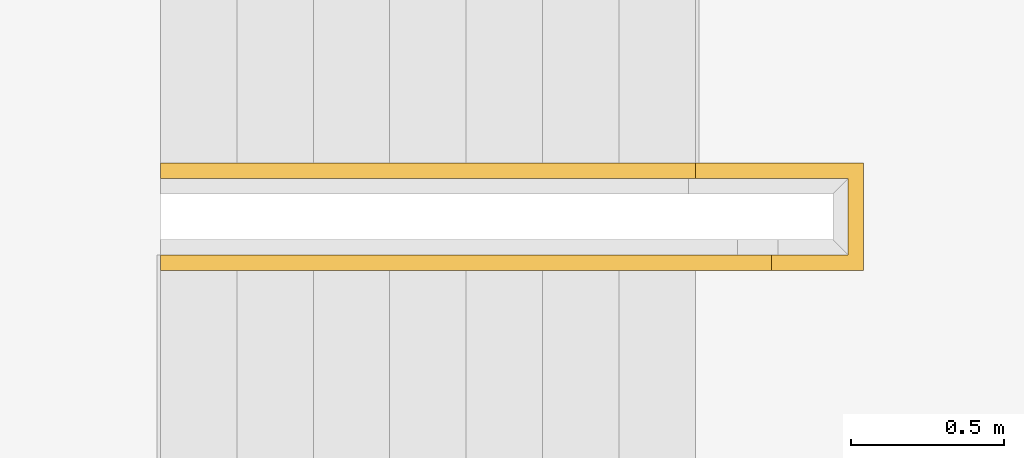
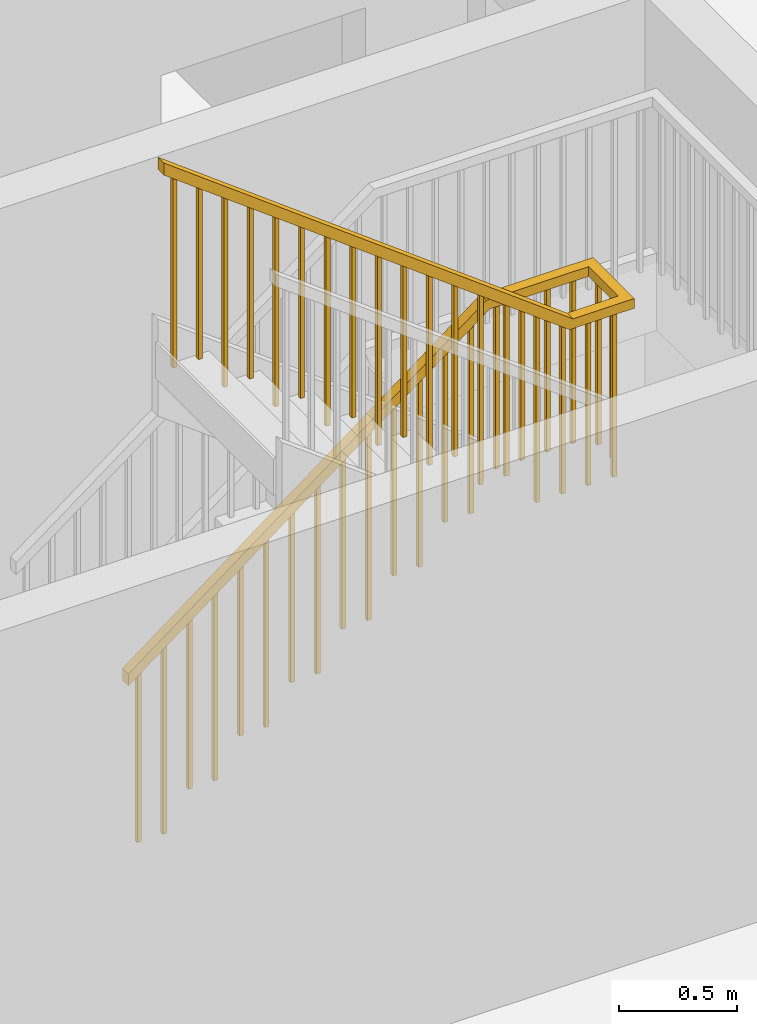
# One storey, part 3 of 3: 1 railing, 1 element without a shape of its own.
"""IFC2X3 building model written with IfcOpenShell, lengths in metres."""

import ifcopenshell
import ifcopenshell.guid

model = None  # the IFC model being written
_history = None  # IfcOwnerHistory: only IFC2X3 demands one
_inside = {}  # id of a spatial element -> (the spatial element, [elements in it])
_under = {}  # id of a project, library or spatial element -> (it, [spatial elements below it])
_declared = {}  # id of a project -> (the project, [libraries it declares])
_typed = {}  # id of a type object -> (the type object, [elements of that type])
_made_of = {}  # id of a material, layer set ... -> (it, [elements and type objects made of it])


def new_model(schema):
    """Start an empty IFC model of exactly this schema.

    Asked for "IFC4X3", IfcOpenShell would pick the latest addendum, in which some entities
    have other attributes; the version numbers below select the first issue.
    IFC2X3 requires an IfcOwnerHistory on every rooted entity: one is made here for all.
    """
    global model, _history
    if schema == "IFC4X3":
        model = ifcopenshell.file(schema_version=(4, 3, 0, 0))
    else:
        model = ifcopenshell.file(schema=schema)
    _inside.clear()
    _under.clear()
    _declared.clear()
    _typed.clear()
    _made_of.clear()
    _history = None
    if model.schema == "IFC2X3":
        org = make("IfcOrganization", Name="unknown")
        user = make(
            "IfcPersonAndOrganization",
            ThePerson=make("IfcPerson", FamilyName="unknown"),
            TheOrganization=org,
        )
        app = make(
            "IfcApplication",
            ApplicationDeveloper=org,
            Version="unknown",
            ApplicationFullName="unknown",
            ApplicationIdentifier="unknown",
        )
        _history = make(
            "IfcOwnerHistory",
            OwningUser=user,
            OwningApplication=app,
            ChangeAction="ADDED",
            CreationDate=0,
        )
    return model


def make(cls, **values):
    """One entity of the class cls with the attributes given. An attribute that is None is left unset."""
    return model.create_entity(
        cls, **{name: value for name, value in values.items() if value is not None}
    )


def entity(cls, *values):
    """Any entity or typed value of the class cls, its attributes in the order of the schema. None: left unset."""
    e = model.create_entity(cls)
    for i, value in enumerate(values):
        if value is not None:
            e[i] = value
    return e


def rooted(cls, **values):
    """An entity with a GlobalId (a new one), such as an element, a storey or a relation."""
    return make(cls, GlobalId=ifcopenshell.guid.new(), OwnerHistory=_history, **values)


def si_unit(unit_type, name, prefix=None):
    """IfcSIUnit, for example si_unit("LENGTHUNIT", "METRE", prefix="MILLI")."""
    return make("IfcSIUnit", UnitType=unit_type, Prefix=prefix, Name=name)


def converted_unit(unit_type, name, factor, base, dimensions=None, offset=None):
    """IfcConversionBasedUnit, such as the inch: factor (a typed value) times the base unit."""
    return make(
        "IfcConversionBasedUnit"
        if offset is None
        else "IfcConversionBasedUnitWithOffset",
        ConversionOffset=offset,
        Dimensions=None
        if dimensions is None
        else entity("IfcDimensionalExponents", *dimensions),
        UnitType=unit_type,
        Name=name,
        ConversionFactor=make(
            "IfcMeasureWithUnit", ValueComponent=factor, UnitComponent=base
        ),
    )


def derived_unit(unit_type, elements):
    """IfcDerivedUnit: a product of units, each with its exponent."""
    return make(
        "IfcDerivedUnit",
        Elements=[
            make("IfcDerivedUnitElement", Unit=unit, Exponent=power)
            for unit, power in elements
        ],
        UnitType=unit_type,
    )


def assignment(units):
    """IfcUnitAssignment: the units of a project."""
    return None if units is None else make("IfcUnitAssignment", Units=units)


def point(xyz):
    """IfcCartesianPoint."""
    return None if xyz is None else make("IfcCartesianPoint", Coordinates=xyz)


def direction(xyz):
    """IfcDirection."""
    return None if xyz is None else make("IfcDirection", DirectionRatios=xyz)


def frame(location, z_axis=None, x_axis=None):
    """IfcAxis2Placement3D, a coordinate frame: its origin and axes. An axis left out is left unset."""
    return make(
        "IfcAxis2Placement3D",
        Location=point(location),
        Axis=direction(z_axis),
        RefDirection=direction(x_axis),
    )


def origin():
    """The frame at (0, 0, 0) with its axes left unset."""
    return frame((0.0, 0.0, 0.0))


def place(relative_to, where):
    """IfcLocalPlacement: puts the frame where relative to a parent placement (None: the world)."""
    return make(
        "IfcLocalPlacement", PlacementRelTo=relative_to, RelativePlacement=where
    )


def context(
    kind, dimensions, precision=None, world=None, true_north=None, identifier=None
):
    """IfcGeometricRepresentationContext, for example the 3D "Model" context."""
    return make(
        "IfcGeometricRepresentationContext",
        ContextIdentifier=identifier,
        ContextType=kind,
        CoordinateSpaceDimension=dimensions,
        Precision=precision,
        WorldCoordinateSystem=world,
        TrueNorth=true_north,
    )


def subcontext(parent, identifier, kind, view, scale=None):
    """IfcGeometricRepresentationSubContext, for example "Body" below "Model"."""
    return make(
        "IfcGeometricRepresentationSubContext",
        ContextIdentifier=identifier,
        ContextType=kind,
        ParentContext=parent,
        TargetScale=scale,
        TargetView=view,
    )


def project(units=None, contexts=None):
    """IfcProject with its units and contexts."""
    return rooted(
        "IfcProject",
        Name="project",
        RepresentationContexts=contexts,
        UnitsInContext=assignment(units),
    )


def spatial(cls, under=None, at=None, **own):
    """A site, building, storey or space (cls), placed at a placement, below another one or the project."""
    s = rooted(cls, ObjectPlacement=at, **own)
    if under is not None:
        _under.setdefault(under.id(), (under, []))[1].append(s)
    return s


def faces_of(points, faces, orient=None, outer=None):
    """IfcFace entities. A face is a list of loops; a loop is a list of indices into points, from 0.

    orient and outer hold one flag for each loop. By default every Orientation is true, the
    first loop of a face is its IfcFaceOuterBound and the others are IfcFaceBound.
    """
    made = []
    for i, loops in enumerate(faces):
        bounds = []
        for j, loop in enumerate(loops):
            is_outer = j == 0 if outer is None else outer[i][j]
            bounds.append(
                make(
                    "IfcFaceOuterBound" if is_outer else "IfcFaceBound",
                    Bound=make("IfcPolyLoop", Polygon=[points[k] for k in loop]),
                    Orientation=True if orient is None else orient[i][j],
                )
            )
        made.append(make("IfcFace", Bounds=bounds))
    return made


def faceted_brep(points, faces, orient=None, outer=None, voids=None):
    """IfcFacetedBrep: a solid bounded by flat faces; with voids (closed shells), ...WithVoids."""
    shared = [point(p) for p in points]
    hull = make("IfcClosedShell", CfsFaces=faces_of(shared, faces, orient, outer))
    if voids is None:
        return make("IfcFacetedBrep", Outer=hull)
    return make(
        "IfcFacetedBrepWithVoids",
        Outer=hull,
        Voids=[
            make(cls, CfsFaces=faces_of(shared, fs, o, b)) for cls, fs, o, b in voids
        ],
    )


def shape(context_of_items, identifier, shape_type, items):
    """IfcShapeRepresentation: the items that make up one representation, for example the "Body"."""
    return make(
        "IfcShapeRepresentation",
        ContextOfItems=context_of_items,
        RepresentationIdentifier=identifier,
        RepresentationType=shape_type,
        Items=items,
    )


def made_of(thing, what):
    """Note that an element or type object is made of a material, layer set ...; save() writes the relation."""
    if what is not None:
        _made_of.setdefault(what.id(), (what, []))[1].append(thing)
    return thing


def element(
    cls,
    number,
    at=None,
    inside=None,
    cuts=None,
    type_object=None,
    material=None,
    context=None,
    identifier="Body",
    shape_type=None,
    held_by="IfcProductDefinitionShape",
    body=None,
    shapes=None,
    **own,
):
    """One element of the class cls, such as IfcWall. Its Tag is "e" and its number.

    at: its placement. inside: the storey or other place that contains it. cuts: it is an
    opening in that element (IfcRelVoidsElement). A single representation is given by context,
    identifier, shape_type and body (its items); several are given by shapes. held_by: the class
    of the entity that holds the representations. save() writes the other relations.
    """
    e = rooted(cls, Tag="e%d" % number, ObjectPlacement=at, **own)
    if body is not None:
        shapes = [shape(context, identifier, shape_type, body)]
    if shapes is not None:
        e.Representation = make(held_by, Representations=shapes)
    if inside is not None:
        _inside.setdefault(inside.id(), (inside, []))[1].append(e)
    if cuts is not None:
        rooted(
            "IfcRelVoidsElement", RelatingBuildingElement=cuts, RelatedOpeningElement=e
        )
    if type_object is not None:
        _typed.setdefault(type_object.id(), (type_object, []))[1].append(e)
    return made_of(e, material)


def aggregate(whole, parts):
    """IfcRelAggregates: a whole, such as a stair, and the parts it consists of."""
    return rooted("IfcRelAggregates", RelatingObject=whole, RelatedObjects=parts)


def save(model, path):
    """Write the relations noted so far, then the file.

    IfcRelAggregates (storeys below a building ...), IfcRelContainedInSpatialStructure (elements
    in a storey), IfcRelDefinesByType, IfcRelAssociatesMaterial and IfcRelDeclares: one each for
    every whole, place, type object, material and project.
    """
    for whole, parts in _under.values():
        aggregate(whole, parts)
    for where, things in _inside.values():
        rooted(
            "IfcRelContainedInSpatialStructure",
            RelatedElements=things,
            RelatingStructure=where,
        )
    for kind, things in _typed.values():
        rooted("IfcRelDefinesByType", RelatedObjects=things, RelatingType=kind)
    for what, things in _made_of.values():
        rooted("IfcRelAssociatesMaterial", RelatedObjects=things, RelatingMaterial=what)
    for by, libraries in _declared.values():
        rooted("IfcRelDeclares", RelatingContext=by, RelatedDefinitions=libraries)
    model.write(path)


model = new_model("IFC2X3")

# Units and contexts
model_context = context("Model", 3, precision=1e-05, world=origin(), true_north=direction((6.12303176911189e-17, 1.0)))
context_of_model = context(None, 3, precision=1e-05, world=origin(), true_north=direction((6.12303176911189e-17, 1.0)))
body_context = subcontext(model_context, "Body", "Model", "MODEL_VIEW")
ifc_project = project(units=[si_unit("LENGTHUNIT", "METRE"), si_unit("AREAUNIT", "SQUARE_METRE"), si_unit("VOLUMEUNIT", "CUBIC_METRE"), converted_unit("PLANEANGLEUNIT", "DEGREE", entity("IfcRatioMeasure", 0.0174532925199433), si_unit("PLANEANGLEUNIT", "RADIAN"), dimensions=[0, 0, 0, 0, 0, 0, 0]), si_unit("MASSUNIT", "GRAM", prefix="KILO"), derived_unit("MASSDENSITYUNIT", [(si_unit("MASSUNIT", "GRAM", prefix="KILO"), 1), (si_unit("LENGTHUNIT", "METRE"), -3)]), si_unit("TIMEUNIT", "SECOND"), si_unit("FREQUENCYUNIT", "HERTZ"), si_unit("THERMODYNAMICTEMPERATUREUNIT", "DEGREE_CELSIUS"), derived_unit("THERMALTRANSMITTANCEUNIT", [(si_unit("MASSUNIT", "GRAM", prefix="KILO"), 1), (si_unit("THERMODYNAMICTEMPERATUREUNIT", "KELVIN"), -1), (si_unit("TIMEUNIT", "SECOND"), -3)]), derived_unit("VOLUMETRICFLOWRATEUNIT", [(si_unit("LENGTHUNIT", "METRE"), 3), (si_unit("TIMEUNIT", "SECOND"), -1)]), si_unit("ELECTRICCURRENTUNIT", "AMPERE"), si_unit("ELECTRICVOLTAGEUNIT", "VOLT"), si_unit("POWERUNIT", "WATT"), si_unit("FORCEUNIT", "NEWTON"), si_unit("ILLUMINANCEUNIT", "LUX"), si_unit("LUMINOUSFLUXUNIT", "LUMEN"), si_unit("LUMINOUSINTENSITYUNIT", "CANDELA"), derived_unit("USERDEFINED", [(si_unit("MASSUNIT", "GRAM", prefix="KILO"), -1), (si_unit("LENGTHUNIT", "METRE"), -2), (si_unit("TIMEUNIT", "SECOND"), 3), (si_unit("LUMINOUSFLUXUNIT", "LUMEN"), 1)]), derived_unit("LINEARVELOCITYUNIT", [(si_unit("LENGTHUNIT", "METRE"), 1), (si_unit("TIMEUNIT", "SECOND"), -1)]), si_unit("PRESSUREUNIT", "PASCAL"), derived_unit("USERDEFINED", [(si_unit("LENGTHUNIT", "METRE"), -2), (si_unit("MASSUNIT", "GRAM", prefix="KILO"), 1), (si_unit("TIMEUNIT", "SECOND"), -2)])], contexts=[model_context, context_of_model])

# Site, building, storey
site_placement = place(None, origin())
site = spatial("IfcSite", under=ifc_project, at=site_placement, Name="Default", CompositionType="ELEMENT")
building_placement = place(site_placement, origin())
building = spatial("IfcBuilding", under=site, at=building_placement, CompositionType="ELEMENT")
storey_placement = place(building_placement, frame((0.0, 0.0, 6.0)))
storey = spatial("IfcBuildingStorey", under=building, at=storey_placement, Name="R+2", CompositionType="ELEMENT", Elevation=5.99999999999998)

# Stair, railing
stair_placement = place(storey_placement, origin())
stair = element("IfcStair", 1, at=stair_placement, inside=storey, Name="Escalier assemblé:Escalier", ObjectType="Escalier assemblé:Contremarche 190 mm max marche 250\xa0mm", ShapeType="NOTDEFINED")
railing_placement = place(stair_placement, frame((5.53266399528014, 0.961410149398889, 0.364705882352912)))
railing = element("IfcRailing", 2, at=railing_placement, Name="Garde-corps:900mm", ObjectType="Garde-corps:900mm", PredefinedType="NOTDEFINED", context=body_context, shape_type="Brep", body=[
    faceted_brep([(0.0725000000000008, 0.0150000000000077, 3.60635283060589), (0.0725000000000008, 0.0150000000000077, 2.63529411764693), (0.0725000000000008, 0.0350000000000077, 2.63529411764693), (0.0725000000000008, 0.0350000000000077, 3.60635283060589), (0.0525000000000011, 0.0350000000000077, 2.63529411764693), (0.0525000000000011, 0.0350000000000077, 3.6214116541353), (0.0525000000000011, 0.0150000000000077, 2.63529411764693), (0.0525000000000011, 0.0150000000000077, 3.6214116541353)], [[[0, 1, 2, 3]], [[3, 2, 4, 5]], [[5, 4, 6, 7]], [[1, 0, 7, 6]], [[0, 3, 5, 7]], [[2, 1, 6, 4]]]),
    faceted_brep([(0.197500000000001, 0.0150000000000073, 3.51223518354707), (0.197500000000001, 0.0150000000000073, 2.63529411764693), (0.197500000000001, 0.0350000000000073, 2.63529411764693), (0.197500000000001, 0.0350000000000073, 3.51223518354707), (0.177500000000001, 0.0350000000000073, 2.63529411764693), (0.177500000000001, 0.0350000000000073, 3.52729400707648), (0.177500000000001, 0.0150000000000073, 2.63529411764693), (0.177500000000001, 0.0150000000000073, 3.52729400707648)], [[[0, 1, 2, 3]], [[3, 2, 4, 5]], [[5, 4, 6, 7]], [[1, 0, 7, 6]], [[0, 3, 5, 7]], [[2, 1, 6, 4]]]),
    faceted_brep([(0.3225, 0.0150000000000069, 3.41811753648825), (0.3225, 0.0150000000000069, 2.44705882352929), (0.3225, 0.0350000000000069, 2.44705882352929), (0.3225, 0.0350000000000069, 3.41811753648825), (0.302500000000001, 0.0350000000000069, 2.44705882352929), (0.302500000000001, 0.0350000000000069, 3.43317636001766), (0.302500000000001, 0.0150000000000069, 2.44705882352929), (0.302500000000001, 0.0150000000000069, 3.43317636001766)], [[[0, 1, 2, 3]], [[3, 2, 4, 5]], [[5, 4, 6, 7]], [[1, 0, 7, 6]], [[0, 3, 5, 7]], [[2, 1, 6, 4]]]),
    faceted_brep([(0.447500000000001, 0.0150000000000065, 3.32399988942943), (0.447500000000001, 0.0150000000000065, 2.44705882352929), (0.447500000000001, 0.0350000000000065, 2.44705882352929), (0.447500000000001, 0.0350000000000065, 3.32399988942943), (0.427500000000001, 0.0350000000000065, 2.44705882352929), (0.427500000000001, 0.0350000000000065, 3.33905871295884), (0.427500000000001, 0.0150000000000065, 2.44705882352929), (0.427500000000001, 0.0150000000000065, 3.33905871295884)], [[[0, 1, 2, 3]], [[3, 2, 4, 5]], [[5, 4, 6, 7]], [[1, 0, 7, 6]], [[0, 3, 5, 7]], [[2, 1, 6, 4]]]),
    faceted_brep([(0.572500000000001, 0.0150000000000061, 3.22988224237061), (0.572500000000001, 0.0150000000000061, 2.25882352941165), (0.572500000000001, 0.0350000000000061, 2.25882352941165), (0.572500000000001, 0.0350000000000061, 3.22988224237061), (0.552500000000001, 0.0350000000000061, 2.25882352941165), (0.552500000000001, 0.0350000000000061, 3.24494106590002), (0.552500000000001, 0.0150000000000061, 2.25882352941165), (0.552500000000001, 0.0150000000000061, 3.24494106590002)], [[[0, 1, 2, 3]], [[3, 2, 4, 5]], [[5, 4, 6, 7]], [[1, 0, 7, 6]], [[0, 3, 5, 7]], [[2, 1, 6, 4]]]),
    faceted_brep([(0.697500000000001, 0.0150000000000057, 3.13576459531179), (0.697500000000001, 0.0150000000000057, 2.25882352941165), (0.697500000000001, 0.0350000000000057, 2.25882352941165), (0.697500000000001, 0.0350000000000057, 3.13576459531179), (0.677500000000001, 0.0350000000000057, 2.25882352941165), (0.677500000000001, 0.0350000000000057, 3.1508234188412), (0.677500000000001, 0.0150000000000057, 2.25882352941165), (0.677500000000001, 0.0150000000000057, 3.1508234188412)], [[[0, 1, 2, 3]], [[3, 2, 4, 5]], [[5, 4, 6, 7]], [[1, 0, 7, 6]], [[0, 3, 5, 7]], [[2, 1, 6, 4]]]),
    faceted_brep([(0.8225, 0.0150000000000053, 3.04164694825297), (0.8225, 0.0150000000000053, 2.07058823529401), (0.8225, 0.0350000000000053, 2.07058823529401), (0.8225, 0.0350000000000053, 3.04164694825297), (0.802500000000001, 0.0350000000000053, 2.07058823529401), (0.802500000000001, 0.0350000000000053, 3.05670577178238), (0.802500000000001, 0.0150000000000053, 2.07058823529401), (0.802500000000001, 0.0150000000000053, 3.05670577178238)], [[[0, 1, 2, 3]], [[3, 2, 4, 5]], [[5, 4, 6, 7]], [[1, 0, 7, 6]], [[0, 3, 5, 7]], [[2, 1, 6, 4]]]),
    faceted_brep([(0.947500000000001, 0.0150000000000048, 2.94752930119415), (0.947500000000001, 0.0150000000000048, 2.07058823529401), (0.947500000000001, 0.0350000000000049, 2.07058823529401), (0.947500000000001, 0.0350000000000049, 2.94752930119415), (0.927500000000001, 0.0350000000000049, 2.07058823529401), (0.927500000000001, 0.0350000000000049, 2.96258812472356), (0.927500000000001, 0.0150000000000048, 2.07058823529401), (0.927500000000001, 0.0150000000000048, 2.96258812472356)], [[[0, 1, 2, 3]], [[3, 2, 4, 5]], [[5, 4, 6, 7]], [[1, 0, 7, 6]], [[0, 3, 5, 7]], [[2, 1, 6, 4]]]),
    faceted_brep([(1.0725, 0.0150000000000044, 2.85341165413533), (1.0725, 0.0150000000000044, 1.88235294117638), (1.0725, 0.0350000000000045, 1.88235294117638), (1.0725, 0.0350000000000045, 2.85341165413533), (1.0525, 0.0350000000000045, 1.88235294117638), (1.0525, 0.0350000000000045, 2.86847047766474), (1.0525, 0.0150000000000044, 1.88235294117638), (1.0525, 0.0150000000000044, 2.86847047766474)], [[[0, 1, 2, 3]], [[3, 2, 4, 5]], [[5, 4, 6, 7]], [[1, 0, 7, 6]], [[0, 3, 5, 7]], [[2, 1, 6, 4]]]),
    faceted_brep([(1.1975, 0.015000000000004, 2.75929400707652), (1.1975, 0.015000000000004, 1.88235294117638), (1.1975, 0.0350000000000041, 1.88235294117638), (1.1975, 0.0350000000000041, 2.75929400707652), (1.1775, 0.0350000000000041, 1.88235294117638), (1.1775, 0.0350000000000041, 2.77435283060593), (1.1775, 0.015000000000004, 1.88235294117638), (1.1775, 0.015000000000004, 2.77435283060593)], [[[0, 1, 2, 3]], [[3, 2, 4, 5]], [[5, 4, 6, 7]], [[1, 0, 7, 6]], [[0, 3, 5, 7]], [[2, 1, 6, 4]]]),
    faceted_brep([(1.3225, 0.0150000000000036, 2.6651763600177), (1.3225, 0.0150000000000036, 1.69411764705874), (1.3225, 0.0350000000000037, 1.69411764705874), (1.3225, 0.0350000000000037, 2.6651763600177), (1.3025, 0.0350000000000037, 1.69411764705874), (1.3025, 0.0350000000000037, 2.68023518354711), (1.3025, 0.0150000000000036, 1.69411764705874), (1.3025, 0.0150000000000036, 2.68023518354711)], [[[0, 1, 2, 3]], [[3, 2, 4, 5]], [[5, 4, 6, 7]], [[1, 0, 7, 6]], [[0, 3, 5, 7]], [[2, 1, 6, 4]]]),
    faceted_brep([(1.4475, 0.0150000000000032, 2.57105871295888), (1.4475, 0.0150000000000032, 1.69411764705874), (1.4475, 0.0350000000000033, 1.69411764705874), (1.4475, 0.0350000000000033, 2.57105871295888), (1.4275, 0.0350000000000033, 1.69411764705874), (1.4275, 0.0350000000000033, 2.58611753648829), (1.4275, 0.0150000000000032, 1.69411764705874), (1.4275, 0.0150000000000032, 2.58611753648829)], [[[0, 1, 2, 3]], [[3, 2, 4, 5]], [[5, 4, 6, 7]], [[1, 0, 7, 6]], [[0, 3, 5, 7]], [[2, 1, 6, 4]]]),
    faceted_brep([(1.5725, 0.0150000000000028, 2.47694106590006), (1.5725, 0.0150000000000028, 1.5058823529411), (1.5725, 0.0350000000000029, 1.5058823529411), (1.5725, 0.0350000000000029, 2.47694106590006), (1.5525, 0.0350000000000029, 1.5058823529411), (1.5525, 0.0350000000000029, 2.49199988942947), (1.5525, 0.0150000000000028, 1.5058823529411), (1.5525, 0.0150000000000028, 2.49199988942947)], [[[0, 1, 2, 3]], [[3, 2, 4, 5]], [[5, 4, 6, 7]], [[1, 0, 7, 6]], [[0, 3, 5, 7]], [[2, 1, 6, 4]]]),
    faceted_brep([(1.6975, 0.0150000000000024, 2.38282341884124), (1.6975, 0.0150000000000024, 1.5058823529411), (1.6975, 0.0350000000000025, 1.5058823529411), (1.6975, 0.0350000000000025, 2.38282341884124), (1.6775, 0.0350000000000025, 1.5058823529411), (1.6775, 0.0350000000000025, 2.39788224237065), (1.6775, 0.0150000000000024, 1.5058823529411), (1.6775, 0.0150000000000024, 2.39788224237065)], [[[0, 1, 2, 3]], [[3, 2, 4, 5]], [[5, 4, 6, 7]], [[1, 0, 7, 6]], [[0, 3, 5, 7]], [[2, 1, 6, 4]]]),
    faceted_brep([(1.8479, 0.015000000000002, 2.26958106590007), (1.8479, 0.015000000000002, 1.31764705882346), (1.8479, 0.0350000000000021, 1.31764705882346), (1.8479, 0.0350000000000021, 2.26958106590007), (1.8279, 0.0350000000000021, 1.31764705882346), (1.8279, 0.0350000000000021, 2.28463988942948), (1.8279, 0.015000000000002, 1.31764705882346), (1.8279, 0.015000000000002, 2.28463988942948)], [[[0, 1, 2, 3]], [[3, 2, 4, 5]], [[5, 4, 6, 7]], [[1, 0, 7, 6]], [[0, 3, 5, 7]], [[2, 1, 6, 4]]]),
    faceted_brep([(1.9729, 0.0150000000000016, 2.17546341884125), (1.9729, 0.0150000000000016, 1.31764705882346), (1.9729, 0.0350000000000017, 1.31764705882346), (1.9729, 0.0350000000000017, 2.17546341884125), (1.9529, 0.0350000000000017, 1.31764705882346), (1.9529, 0.0350000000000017, 2.19052224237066), (1.9529, 0.0150000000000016, 1.31764705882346), (1.9529, 0.0150000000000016, 2.19052224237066)], [[[0, 1, 2, 3]], [[3, 2, 4, 5]], [[5, 4, 6, 7]], [[1, 0, 7, 6]], [[0, 3, 5, 7]], [[2, 1, 6, 4]]]),
    faceted_brep([(2.0979, 0.0150000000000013, 2.16764705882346), (2.0979, 0.0150000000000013, 1.31764705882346), (2.0979, 0.0350000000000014, 1.31764705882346), (2.0979, 0.0350000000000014, 2.16764705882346), (2.0779, 0.0350000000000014, 1.31764705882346), (2.0779, 0.0350000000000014, 2.16764705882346), (2.0779, 0.0150000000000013, 1.31764705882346), (2.0779, 0.0150000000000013, 2.16764705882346)], [[[0, 1, 2, 3]], [[3, 2, 4, 5]], [[5, 4, 6, 7]], [[1, 0, 7, 6]], [[0, 3, 5, 7]], [[2, 1, 6, 4]]]),
    faceted_brep([(2.2229, 0.0150000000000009, 2.16764705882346), (2.2229, 0.0150000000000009, 1.31764705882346), (2.2229, 0.035000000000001, 1.31764705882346), (2.2229, 0.035000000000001, 2.16764705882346), (2.2029, 0.035000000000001, 1.31764705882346), (2.2029, 0.035000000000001, 2.16764705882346), (2.2029, 0.0150000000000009, 1.31764705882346), (2.2029, 0.0150000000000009, 2.16764705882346)], [[[0, 1, 2, 3]], [[3, 2, 4, 5]], [[5, 4, 6, 7]], [[1, 0, 7, 6]], [[0, 3, 5, 7]], [[2, 1, 6, 4]]]),
    faceted_brep([(2.2854, 0.14830000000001, 2.16764705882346), (2.2854, 0.14830000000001, 1.31764705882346), (2.2654, 0.14830000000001, 1.31764705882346), (2.2654, 0.14830000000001, 2.16764705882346), (2.2654, 0.12830000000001, 1.31764705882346), (2.2654, 0.12830000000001, 2.16764705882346), (2.2854, 0.12830000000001, 1.31764705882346), (2.2854, 0.12830000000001, 2.16764705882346)], [[[0, 1, 2, 3]], [[3, 2, 4, 5]], [[5, 4, 6, 7]], [[1, 0, 7, 6]], [[0, 3, 5, 7]], [[2, 1, 6, 4]]]),
    faceted_brep([(2.2854, 0.27330000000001, 2.16764705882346), (2.2854, 0.27330000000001, 1.31764705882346), (2.2654, 0.27330000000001, 1.31764705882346), (2.2654, 0.27330000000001, 2.16764705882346), (2.2654, 0.25330000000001, 1.31764705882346), (2.2654, 0.25330000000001, 2.16764705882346), (2.2854, 0.25330000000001, 1.31764705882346), (2.2854, 0.25330000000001, 2.16764705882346)], [[[0, 1, 2, 3]], [[3, 2, 4, 5]], [[5, 4, 6, 7]], [[1, 0, 7, 6]], [[0, 3, 5, 7]], [[2, 1, 6, 4]]]),
    faceted_brep([(2.1775, 0.33580000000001, 2.16764705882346), (2.1775, 0.33580000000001, 1.31764705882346), (2.1775, 0.31580000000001, 1.31764705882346), (2.1775, 0.315800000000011, 2.16764705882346), (2.1975, 0.315800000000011, 1.31764705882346), (2.1975, 0.315800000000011, 2.16764705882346), (2.1975, 0.335800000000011, 1.31764705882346), (2.1975, 0.33580000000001, 2.16764705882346)], [[[0, 1, 2, 3]], [[3, 2, 4, 5]], [[5, 4, 6, 7]], [[1, 0, 7, 6]], [[0, 3, 5, 7]], [[2, 1, 6, 4]]]),
    faceted_brep([(2.0525, 0.335800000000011, 2.16764705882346), (2.0525, 0.335800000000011, 1.31764705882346), (2.0525, 0.315800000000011, 1.31764705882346), (2.0525, 0.315800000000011, 2.16764705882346), (2.0725, 0.315800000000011, 1.31764705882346), (2.0725, 0.315800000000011, 2.16764705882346), (2.0725, 0.335800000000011, 1.31764705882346), (2.0725, 0.335800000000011, 2.16764705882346)], [[[0, 1, 2, 3]], [[3, 2, 4, 5]], [[5, 4, 6, 7]], [[1, 0, 7, 6]], [[0, 3, 5, 7]], [[2, 1, 6, 4]]]),
    faceted_brep([(1.9275, 0.335800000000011, 2.16764705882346), (1.9275, 0.335800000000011, 1.31764705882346), (1.9275, 0.315800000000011, 1.31764705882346), (1.9275, 0.315800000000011, 2.16764705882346), (1.9475, 0.315800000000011, 1.31764705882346), (1.9475, 0.315800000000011, 2.16764705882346), (1.9475, 0.335800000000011, 1.31764705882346), (1.9475, 0.335800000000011, 2.16764705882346)], [[[0, 1, 2, 3]], [[3, 2, 4, 5]], [[5, 4, 6, 7]], [[1, 0, 7, 6]], [[0, 3, 5, 7]], [[2, 1, 6, 4]]]),
    faceted_brep([(1.8025, 0.335800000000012, 2.16764705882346), (1.8025, 0.335800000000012, 1.31764705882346), (1.8025, 0.315800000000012, 1.31764705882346), (1.8025, 0.315800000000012, 2.16764705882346), (1.8225, 0.315800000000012, 1.31764705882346), (1.8225, 0.315800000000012, 2.16764705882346), (1.8225, 0.335800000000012, 1.31764705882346), (1.8225, 0.335800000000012, 2.16764705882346)], [[[0, 1, 2, 3]], [[3, 2, 4, 5]], [[5, 4, 6, 7]], [[1, 0, 7, 6]], [[0, 3, 5, 7]], [[2, 1, 6, 4]]]),
    faceted_brep([(1.6775, 0.335800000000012, 2.10047047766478), (1.6775, 0.335800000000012, 1.12941176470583), (1.6775, 0.315800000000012, 1.12941176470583), (1.6775, 0.315800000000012, 2.10047047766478), (1.6975, 0.315800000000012, 1.12941176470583), (1.6975, 0.315800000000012, 2.11552930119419), (1.6975, 0.335800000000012, 1.12941176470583), (1.6975, 0.335800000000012, 2.11552930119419)], [[[0, 1, 2, 3]], [[3, 2, 4, 5]], [[5, 4, 6, 7]], [[1, 0, 7, 6]], [[0, 3, 5, 7]], [[2, 1, 6, 4]]]),
    faceted_brep([(1.5525, 0.335800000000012, 2.00635283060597), (1.5525, 0.335800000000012, 1.12941176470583), (1.5525, 0.315800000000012, 1.12941176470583), (1.5525, 0.315800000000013, 2.00635283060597), (1.5725, 0.315800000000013, 1.12941176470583), (1.5725, 0.315800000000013, 2.02141165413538), (1.5725, 0.335800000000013, 1.12941176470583), (1.5725, 0.335800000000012, 2.02141165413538)], [[[0, 1, 2, 3]], [[3, 2, 4, 5]], [[5, 4, 6, 7]], [[1, 0, 7, 6]], [[0, 3, 5, 7]], [[2, 1, 6, 4]]]),
    faceted_brep([(1.4275, 0.335800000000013, 1.91223518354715), (1.4275, 0.335800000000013, 0.941176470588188), (1.4275, 0.315800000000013, 0.941176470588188), (1.4275, 0.315800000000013, 1.91223518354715), (1.4475, 0.315800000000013, 0.941176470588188), (1.4475, 0.315800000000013, 1.92729400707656), (1.4475, 0.335800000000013, 0.941176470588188), (1.4475, 0.335800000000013, 1.92729400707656)], [[[0, 1, 2, 3]], [[3, 2, 4, 5]], [[5, 4, 6, 7]], [[1, 0, 7, 6]], [[0, 3, 5, 7]], [[2, 1, 6, 4]]]),
    faceted_brep([(1.3025, 0.335800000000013, 1.81811753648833), (1.3025, 0.335800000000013, 0.941176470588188), (1.3025, 0.315800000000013, 0.941176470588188), (1.3025, 0.315800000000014, 1.81811753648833), (1.3225, 0.315800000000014, 0.941176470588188), (1.3225, 0.315800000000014, 1.83317636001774), (1.3225, 0.335800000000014, 0.941176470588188), (1.3225, 0.335800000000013, 1.83317636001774)], [[[0, 1, 2, 3]], [[3, 2, 4, 5]], [[5, 4, 6, 7]], [[1, 0, 7, 6]], [[0, 3, 5, 7]], [[2, 1, 6, 4]]]),
    faceted_brep([(1.1775, 0.335800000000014, 1.72399988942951), (1.1775, 0.335800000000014, 0.75294117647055), (1.1775, 0.315800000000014, 0.75294117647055), (1.1775, 0.315800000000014, 1.72399988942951), (1.1975, 0.315800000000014, 0.75294117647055), (1.1975, 0.315800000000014, 1.73905871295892), (1.1975, 0.335800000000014, 0.75294117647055), (1.1975, 0.335800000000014, 1.73905871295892)], [[[0, 1, 2, 3]], [[3, 2, 4, 5]], [[5, 4, 6, 7]], [[1, 0, 7, 6]], [[0, 3, 5, 7]], [[2, 1, 6, 4]]]),
    faceted_brep([(1.0525, 0.335800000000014, 1.62988224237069), (1.0525, 0.335800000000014, 0.75294117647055), (1.0525, 0.315800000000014, 0.75294117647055), (1.0525, 0.315800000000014, 1.62988224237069), (1.0725, 0.315800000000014, 0.75294117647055), (1.0725, 0.315800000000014, 1.6449410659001), (1.0725, 0.335800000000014, 0.75294117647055), (1.0725, 0.335800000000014, 1.6449410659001)], [[[0, 1, 2, 3]], [[3, 2, 4, 5]], [[5, 4, 6, 7]], [[1, 0, 7, 6]], [[0, 3, 5, 7]], [[2, 1, 6, 4]]]),
    faceted_brep([(0.927499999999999, 0.335800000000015, 1.53576459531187), (0.927499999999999, 0.335800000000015, 0.564705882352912), (0.927499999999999, 0.315800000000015, 0.564705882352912), (0.927499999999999, 0.315800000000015, 1.53576459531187), (0.947499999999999, 0.315800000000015, 0.564705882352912), (0.947499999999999, 0.315800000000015, 1.55082341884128), (0.947499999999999, 0.335800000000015, 0.564705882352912), (0.947499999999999, 0.335800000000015, 1.55082341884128)], [[[0, 1, 2, 3]], [[3, 2, 4, 5]], [[5, 4, 6, 7]], [[1, 0, 7, 6]], [[0, 3, 5, 7]], [[2, 1, 6, 4]]]),
    faceted_brep([(0.8025, 0.335800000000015, 1.44164694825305), (0.8025, 0.335800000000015, 0.564705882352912), (0.8025, 0.315800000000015, 0.564705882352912), (0.8025, 0.315800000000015, 1.44164694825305), (0.822499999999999, 0.315800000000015, 0.564705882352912), (0.822499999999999, 0.315800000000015, 1.45670577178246), (0.822499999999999, 0.335800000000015, 0.564705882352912), (0.822499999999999, 0.335800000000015, 1.45670577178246)], [[[0, 1, 2, 3]], [[3, 2, 4, 5]], [[5, 4, 6, 7]], [[1, 0, 7, 6]], [[0, 3, 5, 7]], [[2, 1, 6, 4]]]),
    faceted_brep([(0.677499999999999, 0.335800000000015, 1.34752930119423), (0.677499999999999, 0.335800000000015, 0.376470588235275), (0.677499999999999, 0.315800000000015, 0.376470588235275), (0.677499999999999, 0.315800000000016, 1.34752930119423), (0.697499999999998, 0.315800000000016, 0.376470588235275), (0.697499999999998, 0.315800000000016, 1.36258812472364), (0.697499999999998, 0.335800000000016, 0.376470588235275), (0.697499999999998, 0.335800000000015, 1.36258812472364)], [[[0, 1, 2, 3]], [[3, 2, 4, 5]], [[5, 4, 6, 7]], [[1, 0, 7, 6]], [[0, 3, 5, 7]], [[2, 1, 6, 4]]]),
    faceted_brep([(0.552499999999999, 0.335800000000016, 1.25341165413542), (0.552499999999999, 0.335800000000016, 0.376470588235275), (0.552499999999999, 0.315800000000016, 0.376470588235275), (0.552499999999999, 0.315800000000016, 1.25341165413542), (0.572499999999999, 0.315800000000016, 0.376470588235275), (0.572499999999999, 0.315800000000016, 1.26847047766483), (0.572499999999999, 0.335800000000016, 0.376470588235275), (0.572499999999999, 0.335800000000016, 1.26847047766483)], [[[0, 1, 2, 3]], [[3, 2, 4, 5]], [[5, 4, 6, 7]], [[1, 0, 7, 6]], [[0, 3, 5, 7]], [[2, 1, 6, 4]]]),
    faceted_brep([(0.427499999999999, 0.335800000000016, 1.1592940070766), (0.427499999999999, 0.335800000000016, 0.188235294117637), (0.427499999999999, 0.315800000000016, 0.188235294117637), (0.427499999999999, 0.315800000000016, 1.1592940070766), (0.447499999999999, 0.315800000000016, 0.188235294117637), (0.447499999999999, 0.315800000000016, 1.17435283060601), (0.447499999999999, 0.335800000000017, 0.188235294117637), (0.447499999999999, 0.335800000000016, 1.17435283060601)], [[[0, 1, 2, 3]], [[3, 2, 4, 5]], [[5, 4, 6, 7]], [[1, 0, 7, 6]], [[0, 3, 5, 7]], [[2, 1, 6, 4]]]),
    faceted_brep([(0.302499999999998, 0.335800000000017, 1.06517636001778), (0.302499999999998, 0.335800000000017, 0.188235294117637), (0.302499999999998, 0.315800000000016, 0.188235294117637), (0.302499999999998, 0.315800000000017, 1.06517636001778), (0.322499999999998, 0.315800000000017, 0.188235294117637), (0.322499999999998, 0.315800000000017, 1.08023518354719), (0.322499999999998, 0.335800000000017, 0.188235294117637), (0.322499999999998, 0.335800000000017, 1.08023518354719)], [[[0, 1, 2, 3]], [[3, 2, 4, 5]], [[5, 4, 6, 7]], [[1, 0, 7, 6]], [[0, 3, 5, 7]], [[2, 1, 6, 4]]]),
    faceted_brep([(0.177499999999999, 0.335800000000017, 0.971058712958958), (0.177499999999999, 0.335800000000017, 0.0), (0.177499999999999, 0.315800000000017, 0.0), (0.177499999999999, 0.315800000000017, 0.971058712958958), (0.197499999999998, 0.315800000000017, 0.0), (0.197499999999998, 0.315800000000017, 0.986117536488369), (0.197499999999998, 0.335800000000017, 0.0), (0.197499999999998, 0.335800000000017, 0.986117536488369)], [[[0, 1, 2, 3]], [[3, 2, 4, 5]], [[5, 4, 6, 7]], [[1, 0, 7, 6]], [[0, 3, 5, 7]], [[2, 1, 6, 4]]]),
    faceted_brep([(0.0524999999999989, 0.335800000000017, 0.87694106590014), (0.0524999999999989, 0.335800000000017, 0.0), (0.0524999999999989, 0.315800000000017, 0.0), (0.0524999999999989, 0.315800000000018, 0.87694106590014), (0.0724999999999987, 0.315800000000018, 0.0), (0.0724999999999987, 0.315800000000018, 0.891999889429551), (0.0724999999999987, 0.335800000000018, 0.0), (0.0724999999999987, 0.335800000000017, 0.891999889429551)], [[[0, 1, 2, 3]], [[3, 2, 4, 5]], [[5, 4, 6, 7]], [[1, 0, 7, 6]], [[0, 3, 5, 7]], [[2, 1, 6, 4]]]),
    faceted_brep([(0.0, 0.350800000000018, 0.900000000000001), (0.0, 0.350800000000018, 0.837411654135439), (0.0, 0.300800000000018, 0.837411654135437), (0.0, 0.300800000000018, 0.9), (1.75, 0.350800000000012, 2.21764705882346), (1.76671889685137, 0.350800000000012, 2.16764705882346), (1.76671889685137, 0.300800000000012, 2.16764705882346), (1.75, 0.300800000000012, 2.21764705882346), (2.3004, 0.35080000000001, 2.21764705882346), (2.3004, 0.35080000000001, 2.16764705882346), (2.2504, 0.300800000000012, 2.16764705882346), (2.2504, 0.30080000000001, 2.21764705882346), (2.3004, 0.0, 2.21764705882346), (2.3004, 0.0, 2.16764705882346), (2.2504, 0.0500000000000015, 2.16764705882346), (2.2504, 0.0500000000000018, 2.21764705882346), (2.0, 0.0, 2.21764705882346), (1.98328110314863, 0.0, 2.16764705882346), (1.98328110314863, 0.0500000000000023, 2.16764705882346), (2.0, 0.0500000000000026, 2.21764705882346), (1.75, 0.0, 2.4058823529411), (1.71992486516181, 0.0, 2.36593881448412), (1.7199248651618, 0.0500000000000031, 2.36593881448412), (1.75, 0.0500000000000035, 2.4058823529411), (0.0, 0.0, 3.72352941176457), (0.0, 0.0500000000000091, 3.72352941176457), (0.0, 0.0500000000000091, 3.6609410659), (0.0, 0.0, 3.6609410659)], [[[0, 1, 2, 3]], [[1, 0, 4, 5]], [[2, 1, 5, 6]], [[3, 2, 6, 7]], [[0, 3, 7, 4]], [[5, 4, 8, 9]], [[6, 5, 9, 10]], [[7, 6, 10, 11]], [[4, 7, 11, 8]], [[9, 8, 12, 13]], [[10, 9, 13, 14]], [[11, 10, 14, 15]], [[8, 11, 15, 12]], [[13, 12, 16, 17]], [[14, 13, 17, 18]], [[15, 14, 18, 19]], [[12, 15, 19, 16]], [[17, 16, 20, 21]], [[18, 17, 21, 22]], [[19, 18, 22, 23]], [[16, 19, 23, 20]], [[24, 25, 26, 27]], [[21, 20, 24, 27]], [[22, 21, 27, 26]], [[23, 22, 26, 25]], [[20, 23, 25, 24]]]),
])
aggregate(stair, [railing])

save(model, "model.ifc")
